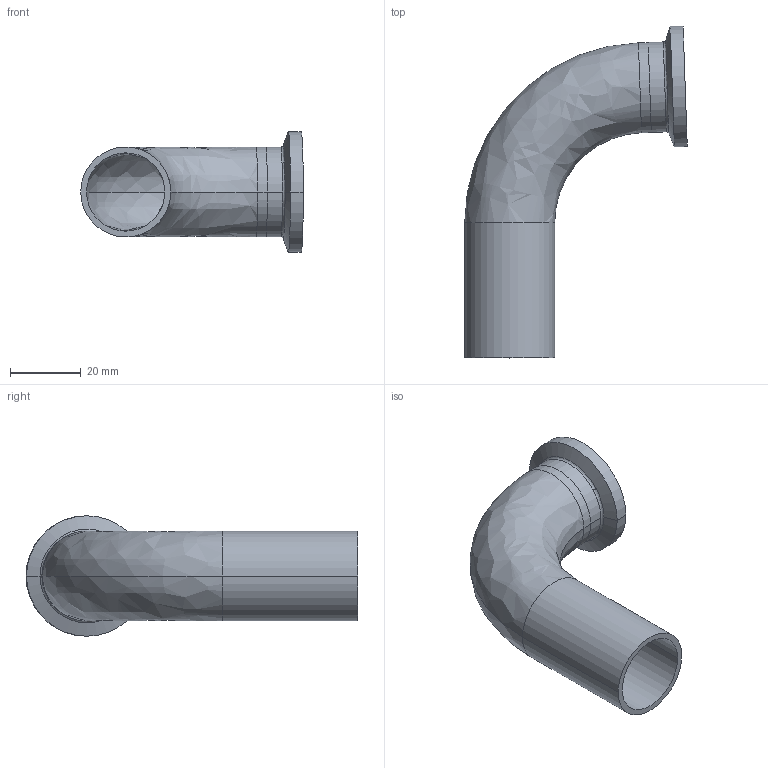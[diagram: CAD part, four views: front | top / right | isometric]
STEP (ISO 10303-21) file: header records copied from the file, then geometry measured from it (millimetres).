
FILE_DESCRIPTION (( 'STEP AP214' ), '1' );
FILE_NAME ('TE2C886L1.0-.._ Type A.STEP', '2016-05-22T07:55:14', ( 'eran' ), ( '' ), 'SwSTEP 2.0', 'SolidWorks 2016', '' );
FILE_SCHEMA (( 'AUTOMOTIVE_DESIGN' ));
Length unit declared in the file: millimetre
Products named in the file (1): TE2C886L1.0-.._ Type A
Bounding box: 62.82 x 93.7 x 34.01 mm (x, y, z)
Volume: 14757.6 mm3; surface area: 17760 mm2
Topology: 2 solids, 2 shells, 37 faces, 86 edges, 54 vertices
Faces by surface type: cylinder 16, bspline 12, plane 5, cone 4
Entity records: 1265 total; most frequent: CARTESIAN_POINT 370, DIRECTION 196, ORIENTED_EDGE 172, AXIS2_PLACEMENT_3D 88, EDGE_CURVE 86, CIRCLE 62, VERTEX_POINT 54, EDGE_LOOP 42
